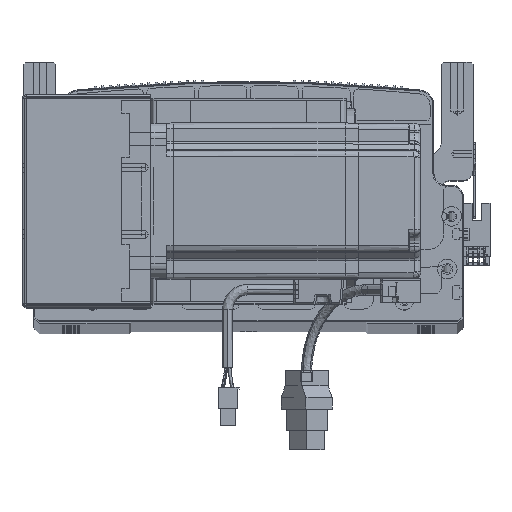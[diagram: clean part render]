
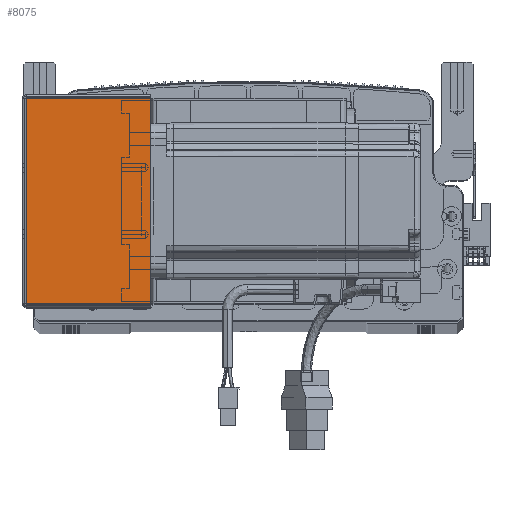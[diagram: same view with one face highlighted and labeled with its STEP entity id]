
A CAD part, top view. The second image highlights one B-rep face of the part: STEP entity #8075.
In plain terms, the highlighted planar face has unit normal (0, 0, 1) as drawn and (0, 0, -1) by its records, which use the part's own axes.
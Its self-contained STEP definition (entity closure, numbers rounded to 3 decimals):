
#229 = ORIENTED_EDGE ( 'NONE', *, *, #68977, .T. ) ;
#6331 = DIRECTION ( 'NONE',  ( 1., 0., 0. ) ) ;
#6990 = ORIENTED_EDGE ( 'NONE', *, *, #60849, .F. ) ;
#7300 = CARTESIAN_POINT ( 'NONE',  ( 0., 105.293, -205.5 ) ) ;
#7907 = VERTEX_POINT ( 'NONE', #63943 ) ;
#8075 = ADVANCED_FACE ( 'NONE', ( #82145 ), #45273, .F. ) ;
#9656 = DIRECTION ( 'NONE',  ( 0., -1., 0. ) ) ;
#12687 = CARTESIAN_POINT ( 'NONE',  ( 0., 0.707, -205.5 ) ) ;
#14378 = VERTEX_POINT ( 'NONE', #45724 ) ;
#14483 = DIRECTION ( 'NONE',  ( 1., 0., 0. ) ) ;
#23000 = VECTOR ( 'NONE', #6331, 1000. ) ;
#36440 = DIRECTION ( 'NONE',  ( 0., -1., 0. ) ) ;
#36498 = EDGE_CURVE ( 'NONE', #94825, #14378, #83372, .T. ) ;
#45273 = PLANE ( 'NONE',  #95259 ) ;
#45724 = CARTESIAN_POINT ( 'NONE',  ( 64.5, 105.293, -205.5 ) ) ;
#50574 = VECTOR ( 'NONE', #36440, 1000. ) ;
#51866 = ORIENTED_EDGE ( 'NONE', *, *, #36498, .T. ) ;
#52436 = EDGE_LOOP ( 'NONE', ( #66069, #51866, #229, #6990 ) ) ;
#55458 = EDGE_CURVE ( 'NONE', #94825, #7907, #85915, .T. ) ;
#55610 = CARTESIAN_POINT ( 'NONE',  ( 0.737, 105.293, -205.5 ) ) ;
#60849 = EDGE_CURVE ( 'NONE', #7907, #62519, #62583, .T. ) ;
#62519 = VERTEX_POINT ( 'NONE', #76055 ) ;
#62583 = LINE ( 'NONE', #12687, #81537 ) ;
#63943 = CARTESIAN_POINT ( 'NONE',  ( 0.737, 0.707, -205.5 ) ) ;
#66069 = ORIENTED_EDGE ( 'NONE', *, *, #55458, .F. ) ;
#68490 = CARTESIAN_POINT ( 'NONE',  ( 0., 0., -205.5 ) ) ;
#68977 = EDGE_CURVE ( 'NONE', #14378, #62519, #70744, .T. ) ;
#70744 = LINE ( 'NONE', #97329, #50574 ) ;
#72263 = CARTESIAN_POINT ( 'NONE',  ( 0.737, 0., -205.5 ) ) ;
#73302 = DIRECTION ( 'NONE',  ( 1., 0., 0. ) ) ;
#75107 = DIRECTION ( 'NONE',  ( 0., 0., 1. ) ) ;
#76055 = CARTESIAN_POINT ( 'NONE',  ( 64.5, 0.707, -205.5 ) ) ;
#81537 = VECTOR ( 'NONE', #73302, 1000. ) ;
#82145 = FACE_OUTER_BOUND ( 'NONE', #52436, .T. ) ;
#83372 = LINE ( 'NONE', #7300, #23000 ) ;
#83537 = VECTOR ( 'NONE', #9656, 1000. ) ;
#85915 = LINE ( 'NONE', #72263, #83537 ) ;
#94825 = VERTEX_POINT ( 'NONE', #55610 ) ;
#95259 = AXIS2_PLACEMENT_3D ( 'NONE', #68490, #75107, #14483 ) ;
#97329 = CARTESIAN_POINT ( 'NONE',  ( 64.5, 0., -205.5 ) ) ;
